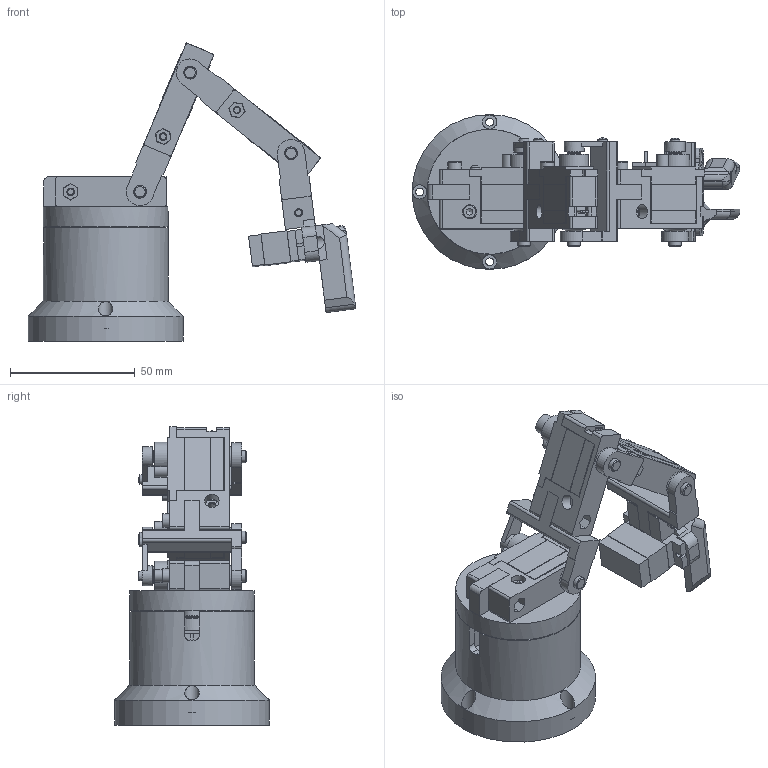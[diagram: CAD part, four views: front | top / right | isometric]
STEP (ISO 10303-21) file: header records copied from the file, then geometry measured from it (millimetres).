
FILE_DESCRIPTION(/* description */ (''),/* implementation_level */ '2;1');
FILE_NAME(/* name */ 'Assieme_robot_mg90s_verticale2.stp',/* time_stamp */ '2026-03-25T13:12:48+01:00',/* author */ ('Ryzen5700u'),/* organization */ (''),/* preprocessor_version */ 'ST-DEVELOPER v20',/* originating_system */ 'Autodesk Inventor 2025',/* authorisation */ '');
FILE_SCHEMA (('AUTOMOTIVE_DESIGN { 1 0 10303 214 3 1 1 }'));
Length unit declared in the file: millimetre
Products named in the file (17): Assieme_robot_mg90s_verticale2; Assieme_mg90s_perno; Assieme_mg90s_perno_1; base_ruota; Assieme_mg90s_perno_2; blocco_mg90s; braccio_mobile_mg90s; base; AS 1420 - 1973 - M3 x 20; AS 1474 - M3; Vite a testa cilindrica incassata esalobulare ISO 14580 - M2x8-4.8; Assieme_pinza_eco; MG90_ldb; MG90S ARM; blocco_pinza_eco; dito_pinza_mg90s; ISO 7049 - ST2,2 x 6,5 - C - H
Assembly tree (37 placements, depth 3):
  Assieme_robot_mg90s_verticale2
    Assieme_mg90s_perno
      MG90_ldb
      blocco_mg90s
      MG90S ARM
      braccio_mobile_mg90s
    Assieme_mg90s_perno_1
      MG90_ldb
      blocco_mg90s
      MG90S ARM
      braccio_mobile_mg90s
    base_ruota
    MG90_ldb
    MG90S ARM
    Assieme_mg90s_perno_2
      MG90_ldb
      blocco_mg90s
      MG90S ARM
      braccio_mobile_mg90s
    base
    AS 1420 - 1973 - M3 x 20  x5
    AS 1474 - M3  x3
    ISO 7049 - ST2,2 x 6,5 - C - H  x4
    Vite a testa cilindrica incassata esalobulare ISO 14580 - M2x8-4.8
    Assieme_pinza_eco
      MG90_ldb
      MG90S ARM
      blocco_pinza_eco
      dito_pinza_mg90s
Bounding box: 131.18 x 62 x 119.46 mm (x, y, z)
Volume: 146336.4 mm3; surface area: 67912 mm2
Topology: 33 solids, 33 shells, 2489 faces, 7076 edges, 4701 vertices
Faces by surface type: plane 1741, cylinder 644, cone 69, torus 30, sphere 5
Full cylindrical faces by diameter (mm): 1.167 x15, 2 x18, 2.2 x10, 2.4 x3, 2.459 x3, 2.5 x5, 2.7 x3, 3 x5, 3.2 x20, 4.4 x1, 5 x5, 5.1 x3, 5.5 x5, 5.7 x7, 6 x1, 50 x2, 62 x1
Entity records: 23685 total; most frequent: CARTESIAN_POINT 4486, ORIENTED_EDGE 3862, DIRECTION 3842, EDGE_CURVE 1931, LINE 1408, VECTOR 1408, VERTEX_POINT 1282, AXIS2_PLACEMENT_3D 1217
